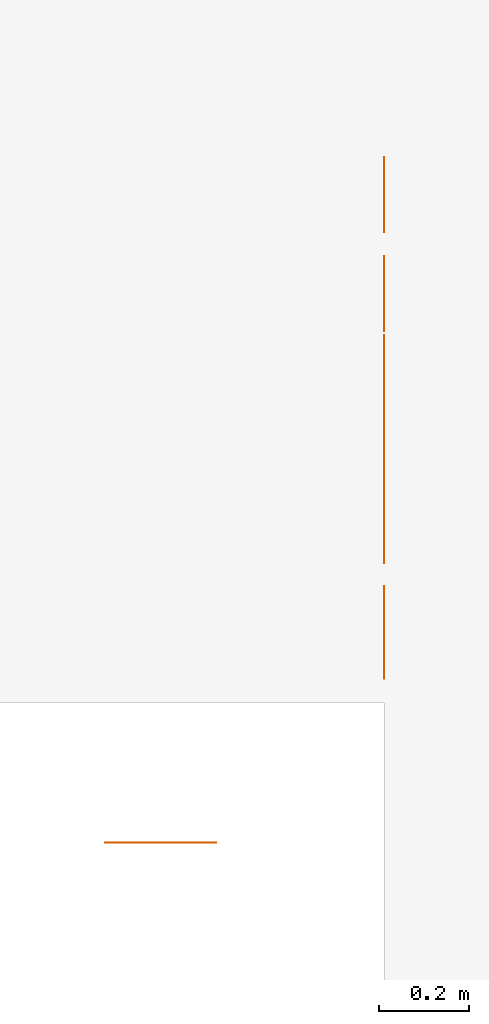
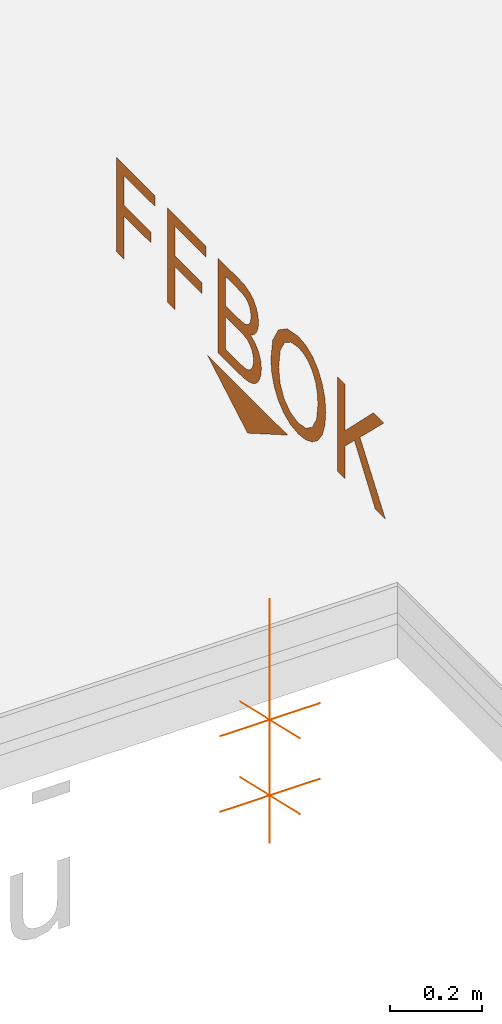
# One storey, part 2 of 3: 2 proxies, 2 elements without a shape of their own.
"""IFC4 building model written with IfcOpenShell, lengths in metres."""

import ifcopenshell
import ifcopenshell.guid

model = None  # the IFC model being written
_history = None  # IfcOwnerHistory: only IFC2X3 demands one
_inside = {}  # id of a spatial element -> (the spatial element, [elements in it])
_under = {}  # id of a project, library or spatial element -> (it, [spatial elements below it])
_declared = {}  # id of a project -> (the project, [libraries it declares])
_typed = {}  # id of a type object -> (the type object, [elements of that type])
_made_of = {}  # id of a material, layer set ... -> (it, [elements and type objects made of it])


def new_model(schema):
    """Start an empty IFC model of exactly this schema.

    Asked for "IFC4X3", IfcOpenShell would pick the latest addendum, in which some entities
    have other attributes; the version numbers below select the first issue.
    IFC2X3 requires an IfcOwnerHistory on every rooted entity: one is made here for all.
    """
    global model, _history
    if schema == "IFC4X3":
        model = ifcopenshell.file(schema_version=(4, 3, 0, 0))
    else:
        model = ifcopenshell.file(schema=schema)
    _inside.clear()
    _under.clear()
    _declared.clear()
    _typed.clear()
    _made_of.clear()
    _history = None
    if model.schema == "IFC2X3":
        org = make("IfcOrganization", Name="unknown")
        user = make(
            "IfcPersonAndOrganization",
            ThePerson=make("IfcPerson", FamilyName="unknown"),
            TheOrganization=org,
        )
        app = make(
            "IfcApplication",
            ApplicationDeveloper=org,
            Version="unknown",
            ApplicationFullName="unknown",
            ApplicationIdentifier="unknown",
        )
        _history = make(
            "IfcOwnerHistory",
            OwningUser=user,
            OwningApplication=app,
            ChangeAction="ADDED",
            CreationDate=0,
        )
    return model


def make(cls, **values):
    """One entity of the class cls with the attributes given. An attribute that is None is left unset."""
    return model.create_entity(
        cls, **{name: value for name, value in values.items() if value is not None}
    )


def entity(cls, *values):
    """Any entity or typed value of the class cls, its attributes in the order of the schema. None: left unset."""
    e = model.create_entity(cls)
    for i, value in enumerate(values):
        if value is not None:
            e[i] = value
    return e


def rooted(cls, **values):
    """An entity with a GlobalId (a new one), such as an element, a storey or a relation."""
    return make(cls, GlobalId=ifcopenshell.guid.new(), OwnerHistory=_history, **values)


def si_unit(unit_type, name, prefix=None):
    """IfcSIUnit, for example si_unit("LENGTHUNIT", "METRE", prefix="MILLI")."""
    return make("IfcSIUnit", UnitType=unit_type, Prefix=prefix, Name=name)


def converted_unit(unit_type, name, factor, base, dimensions=None, offset=None):
    """IfcConversionBasedUnit, such as the inch: factor (a typed value) times the base unit."""
    return make(
        "IfcConversionBasedUnit"
        if offset is None
        else "IfcConversionBasedUnitWithOffset",
        ConversionOffset=offset,
        Dimensions=None
        if dimensions is None
        else entity("IfcDimensionalExponents", *dimensions),
        UnitType=unit_type,
        Name=name,
        ConversionFactor=make(
            "IfcMeasureWithUnit", ValueComponent=factor, UnitComponent=base
        ),
    )


def derived_unit(unit_type, elements):
    """IfcDerivedUnit: a product of units, each with its exponent."""
    return make(
        "IfcDerivedUnit",
        Elements=[
            make("IfcDerivedUnitElement", Unit=unit, Exponent=power)
            for unit, power in elements
        ],
        UnitType=unit_type,
    )


def assignment(units):
    """IfcUnitAssignment: the units of a project."""
    return None if units is None else make("IfcUnitAssignment", Units=units)


def point(xyz):
    """IfcCartesianPoint."""
    return None if xyz is None else make("IfcCartesianPoint", Coordinates=xyz)


def direction(xyz):
    """IfcDirection."""
    return None if xyz is None else make("IfcDirection", DirectionRatios=xyz)


def frame(location, z_axis=None, x_axis=None):
    """IfcAxis2Placement3D, a coordinate frame: its origin and axes. An axis left out is left unset."""
    return make(
        "IfcAxis2Placement3D",
        Location=point(location),
        Axis=direction(z_axis),
        RefDirection=direction(x_axis),
    )


def origin():
    """The frame at (0, 0, 0) with its axes left unset."""
    return frame((0.0, 0.0, 0.0))


def origin_with_axes():
    """The frame at (0, 0, 0) with the z axis (0, 0, 1) and the x axis (1, 0, 0) written out."""
    return frame((0.0, 0.0, 0.0), z_axis=(0.0, 0.0, 1.0), x_axis=(1.0, 0.0, 0.0))


def place(relative_to, where):
    """IfcLocalPlacement: puts the frame where relative to a parent placement (None: the world)."""
    return make(
        "IfcLocalPlacement", PlacementRelTo=relative_to, RelativePlacement=where
    )


def context(
    kind, dimensions, precision=None, world=None, true_north=None, identifier=None
):
    """IfcGeometricRepresentationContext, for example the 3D "Model" context."""
    return make(
        "IfcGeometricRepresentationContext",
        ContextIdentifier=identifier,
        ContextType=kind,
        CoordinateSpaceDimension=dimensions,
        Precision=precision,
        WorldCoordinateSystem=world,
        TrueNorth=true_north,
    )


def subcontext(parent, identifier, kind, view, scale=None):
    """IfcGeometricRepresentationSubContext, for example "Body" below "Model"."""
    return make(
        "IfcGeometricRepresentationSubContext",
        ContextIdentifier=identifier,
        ContextType=kind,
        ParentContext=parent,
        TargetScale=scale,
        TargetView=view,
    )


def project(units=None, contexts=None):
    """IfcProject with its units and contexts."""
    return rooted(
        "IfcProject",
        Name="project",
        RepresentationContexts=contexts,
        UnitsInContext=assignment(units),
    )


def spatial(cls, under=None, at=None, **own):
    """A site, building, storey or space (cls), placed at a placement, below another one or the project."""
    s = rooted(cls, ObjectPlacement=at, **own)
    if under is not None:
        _under.setdefault(under.id(), (under, []))[1].append(s)
    return s


def faces_of(points, faces, orient=None, outer=None):
    """IfcFace entities. A face is a list of loops; a loop is a list of indices into points, from 0.

    orient and outer hold one flag for each loop. By default every Orientation is true, the
    first loop of a face is its IfcFaceOuterBound and the others are IfcFaceBound.
    """
    made = []
    for i, loops in enumerate(faces):
        bounds = []
        for j, loop in enumerate(loops):
            is_outer = j == 0 if outer is None else outer[i][j]
            bounds.append(
                make(
                    "IfcFaceOuterBound" if is_outer else "IfcFaceBound",
                    Bound=make("IfcPolyLoop", Polygon=[points[k] for k in loop]),
                    Orientation=True if orient is None else orient[i][j],
                )
            )
        made.append(make("IfcFace", Bounds=bounds))
    return made


def open_shell(faces, orient=None, outer=None):
    """The faces of one IfcOpenShell. surface_model builds it on its shared points."""
    return ("IfcOpenShell", faces, orient, outer)


def surface_model(cls, points, shells):
    """IfcFaceBasedSurfaceModel or IfcShellBasedSurfaceModel (cls): surfaces that need not close."""
    shared = [point(p) for p in points]
    made = [make(c, CfsFaces=faces_of(shared, fs, o, b)) for c, fs, o, b in shells]
    if cls == "IfcFaceBasedSurfaceModel":
        return make(cls, FbsmFaces=made)
    return make(cls, SbsmBoundary=made)


def shape(context_of_items, identifier, shape_type, items):
    """IfcShapeRepresentation: the items that make up one representation, for example the "Body"."""
    return make(
        "IfcShapeRepresentation",
        ContextOfItems=context_of_items,
        RepresentationIdentifier=identifier,
        RepresentationType=shape_type,
        Items=items,
    )


def source(mapping_origin, context_of_items, identifier, shape_type, items):
    """IfcRepresentationMap: a shape defined once, which mapped items show again and again."""
    return make(
        "IfcRepresentationMap",
        MappingOrigin=mapping_origin,
        MappedRepresentation=shape(context_of_items, identifier, shape_type, items),
    )


def transform(
    local_origin,
    x_axis=None,
    y_axis=None,
    z_axis=None,
    scale=None,
    scale2=None,
    scale3=None,
    uniform=True,
):
    """IfcCartesianTransformationOperator3D, or its non-uniform kind. x_axis, y_axis, z_axis: its Axis1, 2, 3."""
    if uniform:
        return make(
            "IfcCartesianTransformationOperator3D",
            Axis1=direction(x_axis),
            Axis2=direction(y_axis),
            LocalOrigin=point(local_origin),
            Scale=scale,
            Axis3=direction(z_axis),
        )
    return make(
        "IfcCartesianTransformationOperator3DnonUniform",
        Axis1=direction(x_axis),
        Axis2=direction(y_axis),
        LocalOrigin=point(local_origin),
        Scale=scale,
        Axis3=direction(z_axis),
        Scale2=scale2,
        Scale3=scale3,
    )


def mapped(mapping_source, mapping_target):
    """IfcMappedItem: shows the shape of a source again, moved by a transform."""
    return make(
        "IfcMappedItem", MappingSource=mapping_source, MappingTarget=mapping_target
    )


def made_of(thing, what):
    """Note that an element or type object is made of a material, layer set ...; save() writes the relation."""
    if what is not None:
        _made_of.setdefault(what.id(), (what, []))[1].append(thing)
    return thing


def element(
    cls,
    number,
    at=None,
    inside=None,
    cuts=None,
    type_object=None,
    material=None,
    context=None,
    identifier="Body",
    shape_type=None,
    held_by="IfcProductDefinitionShape",
    body=None,
    shapes=None,
    **own,
):
    """One element of the class cls, such as IfcWall. Its Tag is "e" and its number.

    at: its placement. inside: the storey or other place that contains it. cuts: it is an
    opening in that element (IfcRelVoidsElement). A single representation is given by context,
    identifier, shape_type and body (its items); several are given by shapes. held_by: the class
    of the entity that holds the representations. save() writes the other relations.
    """
    e = rooted(cls, Tag="e%d" % number, ObjectPlacement=at, **own)
    if body is not None:
        shapes = [shape(context, identifier, shape_type, body)]
    if shapes is not None:
        e.Representation = make(held_by, Representations=shapes)
    if inside is not None:
        _inside.setdefault(inside.id(), (inside, []))[1].append(e)
    if cuts is not None:
        rooted(
            "IfcRelVoidsElement", RelatingBuildingElement=cuts, RelatedOpeningElement=e
        )
    if type_object is not None:
        _typed.setdefault(type_object.id(), (type_object, []))[1].append(e)
    return made_of(e, material)


def aggregate(whole, parts):
    """IfcRelAggregates: a whole, such as a stair, and the parts it consists of."""
    return rooted("IfcRelAggregates", RelatingObject=whole, RelatedObjects=parts)


def save(model, path):
    """Write the relations noted so far, then the file.

    IfcRelAggregates (storeys below a building ...), IfcRelContainedInSpatialStructure (elements
    in a storey), IfcRelDefinesByType, IfcRelAssociatesMaterial and IfcRelDeclares: one each for
    every whole, place, type object, material and project.
    """
    for whole, parts in _under.values():
        aggregate(whole, parts)
    for where, things in _inside.values():
        rooted(
            "IfcRelContainedInSpatialStructure",
            RelatedElements=things,
            RelatingStructure=where,
        )
    for kind, things in _typed.values():
        rooted("IfcRelDefinesByType", RelatedObjects=things, RelatingType=kind)
    for what, things in _made_of.values():
        rooted("IfcRelAssociatesMaterial", RelatedObjects=things, RelatingMaterial=what)
    for by, libraries in _declared.values():
        rooted("IfcRelDeclares", RelatingContext=by, RelatedDefinitions=libraries)
    model.write(path)


model = new_model("IFC4")

# Units and contexts
model_context = context("Model", 3, precision=1e-05, world=origin())
body_context = subcontext(model_context, "Body", "Model", "MODEL_VIEW")
ifc_project = project(units=[si_unit("LENGTHUNIT", "METRE"), si_unit("AREAUNIT", "SQUARE_METRE"), si_unit("VOLUMEUNIT", "CUBIC_METRE"), si_unit("MASSUNIT", "GRAM", prefix="KILO"), converted_unit("PLANEANGLEUNIT", "DEGREE", entity("IfcPlaneAngleMeasure", 0.0174532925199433), si_unit("PLANEANGLEUNIT", "RADIAN"), dimensions=[0, 0, 0, 0, 0, 0, 0]), derived_unit("THERMALTRANSMITTANCEUNIT", [(si_unit("POWERUNIT", "WATT"), 1), (si_unit("THERMODYNAMICTEMPERATUREUNIT", "KELVIN"), -1), (si_unit("LENGTHUNIT", "METRE"), -2)]), derived_unit("VOLUMETRICFLOWRATEUNIT", [(si_unit("LENGTHUNIT", "METRE"), 3), (converted_unit("TIMEUNIT", "hour", entity("IfcTimeMeasure", 3600.0), si_unit("TIMEUNIT", "SECOND"), dimensions=[0, 0, 1, 0, 0, 0, 0]), -1), (si_unit("LENGTHUNIT", "METRE"), -1)])], contexts=[model_context])

# Site, building, storey
site_placement = place(None, origin())
site = spatial("IfcSite", under=ifc_project, at=site_placement, Name="Liegenschaft", CompositionType="ELEMENT")
building_placement = place(site_placement, origin())
building = spatial("IfcBuilding", under=site, at=building_placement, Name="Gebäude", CompositionType="ELEMENT")
storey_placement = place(building_placement, origin())
storey = spatial("IfcBuildingStorey", under=building, at=storey_placement, Name="Geschoss 02", CompositionType="ELEMENT", Elevation=0.0)

# Assembly, proxy
assembly_1_placement = place(storey_placement, origin())
assembly_1 = element("IfcElementAssembly", 1, at=assembly_1_placement, inside=storey, Name="SpatialDim_Group", PredefinedType="NOTDEFINED")
shared_shape_1 = source(origin_with_axes(), body_context, "Body", "SurfaceModel", [
    surface_model("IfcShellBasedSurfaceModel", [(0.0, 0.5965, 0.0), (0.1, 0.769705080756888, 0.0), (0.1, 0.423294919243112, 0.0)], [open_shell([[[0, 1, 2]]], orient=[[False]])]),
    surface_model("IfcShellBasedSurfaceModel", [(0.135, 1.165, 0.0), (0.135, 1.132, 0.0), (0.249, 1.132, 0.0), (0.249, 1.015, 0.0), (0.278, 1.015, 0.0), (0.278, 1.132, 0.0), (0.356, 1.132, 0.0), (0.356, 0.997, 0.0), (0.385, 0.997, 0.0), (0.385, 1.165, 0.0)], [open_shell([[[0, 1, 2, 3, 4, 5, 6, 7, 8, 9]]], orient=[[False]])]),
    surface_model("IfcShellBasedSurfaceModel", [(0.135, 0.944, 0.0), (0.135, 0.911, 0.0), (0.249, 0.911, 0.0), (0.249, 0.794, 0.0), (0.278, 0.794, 0.0), (0.278, 0.911, 0.0), (0.356, 0.911, 0.0), (0.356, 0.776, 0.0), (0.385, 0.776, 0.0), (0.385, 0.944, 0.0)], [open_shell([[[0, 1, 2, 3, 4, 5, 6, 7, 8, 9]]], orient=[[False]])]),
    surface_model("IfcShellBasedSurfaceModel", [(0.135, 0.725, 0.0), (0.135, 0.63, 0.0), (0.13625, 0.60775, 0.0), (0.139, 0.59, 0.0), (0.14425, 0.575, 0.0), (0.151, 0.563, 0.0), (0.1615, 0.552375, 0.0), (0.175, 0.544, 0.0), (0.190625, 0.538625, 0.0), (0.207, 0.537, 0.0), (0.227375, 0.54, 0.0), (0.244, 0.549, 0.0), (0.258125, 0.564625, 0.0), (0.267, 0.584, 0.0), (0.277375, 0.56875, 0.0), (0.29, 0.558, 0.0), (0.305125, 0.55125, 0.0), (0.321, 0.549, 0.0), (0.33825, 0.55175, 0.0), (0.354, 0.559, 0.0), (0.368125, 0.571, 0.0), (0.377, 0.586, 0.0), (0.38325, 0.606375, 0.0), (0.385, 0.632, 0.0), (0.385, 0.725, 0.0), (0.27975, 0.619875, 0.0), (0.279, 0.638, 0.0), (0.279, 0.692, 0.0), (0.356, 0.692, 0.0), (0.356, 0.642, 0.0), (0.35475, 0.619375, 0.0), (0.352, 0.605, 0.0), (0.347, 0.595, 0.0), (0.339, 0.588, 0.0), (0.32875, 0.5835, 0.0), (0.317, 0.582, 0.0), (0.304875, 0.5835, 0.0), (0.295, 0.588, 0.0), (0.287, 0.596375, 0.0), (0.282, 0.607, 0.0), (0.164125, 0.61675, 0.0), (0.164, 0.63, 0.0), (0.164, 0.692, 0.0), (0.25, 0.692, 0.0), (0.25, 0.635, 0.0), (0.24875, 0.6135, 0.0), (0.246, 0.598, 0.0), (0.24, 0.586875, 0.0), (0.231, 0.578, 0.0), (0.21975, 0.572625, 0.0), (0.207, 0.571, 0.0), (0.19575, 0.572375, 0.0), (0.186, 0.576, 0.0), (0.177875, 0.582125, 0.0), (0.172, 0.589, 0.0), (0.167375, 0.597375, 0.0), (0.165, 0.608, 0.0)], [open_shell([[[0, 1, 2, 3, 4, 5, 6, 7, 8, 9, 10, 11, 12, 13, 14, 15, 16, 17, 18, 19, 20, 21, 22, 23, 24], [25, 26, 27, 28, 29, 30, 31, 32, 33, 34, 35, 36, 37, 38, 39], [40, 41, 42, 43, 44, 45, 46, 47, 48, 49, 50, 51, 52, 53, 54, 55, 56]]], orient=[[False, False, False]])]),
    surface_model("IfcShellBasedSurfaceModel", [(0.22475, 0.492375, 0.0), (0.194, 0.482, 0.0), (0.167625, 0.464, 0.0), (0.148, 0.44, 0.0), (0.135, 0.41, 0.0), (0.131, 0.377, 0.0), (0.13475, 0.3455, 0.0), (0.146, 0.317, 0.0), (0.165625, 0.291625, 0.0), (0.192, 0.273, 0.0), (0.224125, 0.26175, 0.0), (0.26, 0.258, 0.0), (0.29525, 0.26175, 0.0), (0.326, 0.273, 0.0), (0.352875, 0.291, 0.0), (0.373, 0.315, 0.0), (0.385125, 0.344125, 0.0), (0.389, 0.377, 0.0), (0.380125, 0.424875, 0.0), (0.354, 0.463, 0.0), (0.311875, 0.48775, 0.0), (0.257, 0.496, 0.0), (0.216875, 0.456, 0.0), (0.256, 0.462, 0.0), (0.30425, 0.4555, 0.0), (0.336, 0.437, 0.0), (0.354, 0.40925, 0.0), (0.36, 0.377, 0.0), (0.357, 0.353, 0.0), (0.348, 0.332, 0.0), (0.332375, 0.31475, 0.0), (0.313, 0.302, 0.0), (0.288, 0.294375, 0.0), (0.26, 0.292, 0.0), (0.217375, 0.298, 0.0), (0.186, 0.316, 0.0), (0.16625, 0.3435, 0.0), (0.16, 0.377, 0.0), (0.166625, 0.410875, 0.0), (0.186, 0.438, 0.0)], [open_shell([[[0, 1, 2, 3, 4, 5, 6, 7, 8, 9, 10, 11, 12, 13, 14, 15, 16, 17, 18, 19, 20, 21], [22, 23, 24, 25, 26, 27, 28, 29, 30, 31, 32, 33, 34, 35, 36, 37, 38, 39]]], orient=[[False, False]])]),
    surface_model("IfcShellBasedSurfaceModel", [(0.135, 0.207, 0.0), (0.135, 0.174, 0.0), (0.222, 0.174, 0.0), (0.261, 0.134, 0.0), (0.135, 0.044, 0.0), (0.135, 0.0, 0.0), (0.284, 0.11, 0.0), (0.385, 0.006, 0.0), (0.385, 0.051, 0.0), (0.263, 0.174, 0.0), (0.385, 0.174, 0.0), (0.385, 0.207, 0.0)], [open_shell([[[0, 1, 2, 3, 4, 5, 6, 7, 8, 9, 10, 11]]], orient=[[False]])]),
])
proxy_1_placement = place(assembly_1_placement, frame((83.1958806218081, -1.46171930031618, 0.2), z_axis=(-1.0, 0.0, 1.22464679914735e-16), x_axis=(1.22464679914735e-16, 0.0, 1.0)))
proxy_1 = element("IfcBuildingElementProxy", 2, at=proxy_1_placement, Name="FFBOK", context=body_context, shape_type="MappedRepresentation", body=[
    mapped(shared_shape_1, transform((0.0, 0.0, 0.0), x_axis=(1.0, 0.0, 0.0), y_axis=(0.0, 1.0, 0.0), z_axis=(0.0, 0.0, 1.0), scale=1.0)),
])
aggregate(assembly_1, [proxy_1])

assembly_2_placement = place(storey_placement, origin())
assembly_2 = element("IfcElementAssembly", 3, at=assembly_2_placement, inside=storey, Name="SpatialDim_Group", PredefinedType="NOTDEFINED")
shared_shape_2 = source(origin_with_axes(), body_context, "Axis", "Curve3D", [
    entity("IfcPolyline", [entity("IfcCartesianPoint", [0.247, 0.05, 0.0]), entity("IfcCartesianPoint", [0.397, 0.2, 0.0])]),
    entity("IfcPolyline", [entity("IfcCartesianPoint", [0.322, 0.0, 0.0]), entity("IfcCartesianPoint", [0.322, 0.25, 0.0])]),
    entity("IfcPolyline", [entity("IfcCartesianPoint", [0.447, 0.05, 0.0]), entity("IfcCartesianPoint", [0.597, 0.2, 0.0])]),
    entity("IfcPolyline", [entity("IfcCartesianPoint", [0.522, 0.0, 0.0]), entity("IfcCartesianPoint", [0.522, 0.25, 0.0])]),
    entity("IfcPolyline", [entity("IfcCartesianPoint", [0.0, 0.125, 0.0]), entity("IfcCartesianPoint", [0.647, 0.125, 0.0])]),
])
proxy_2_placement = place(assembly_2_placement, frame((82.5708806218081, -1.82689502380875, 0.522), z_axis=(1.22464679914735e-16, -1.0, 1.49975978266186e-32), x_axis=(1.22464679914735e-16, 0.0, -1.0)))
proxy_2 = element("IfcBuildingElementProxy", 4, at=proxy_2_placement, context=body_context, shape_type="MappedRepresentation", body=[
    mapped(shared_shape_2, transform((0.0, 0.0, 0.0), x_axis=(1.0, 0.0, 0.0), y_axis=(0.0, 1.0, 0.0), z_axis=(0.0, 0.0, 1.0), scale=1.0)),
])
aggregate(assembly_2, [proxy_2])

save(model, "model.ifc")
